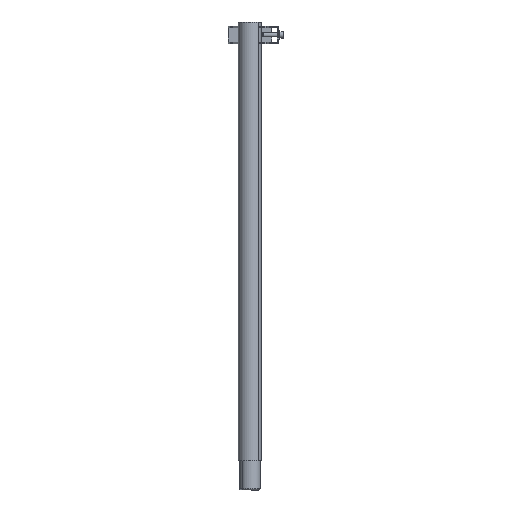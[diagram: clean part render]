
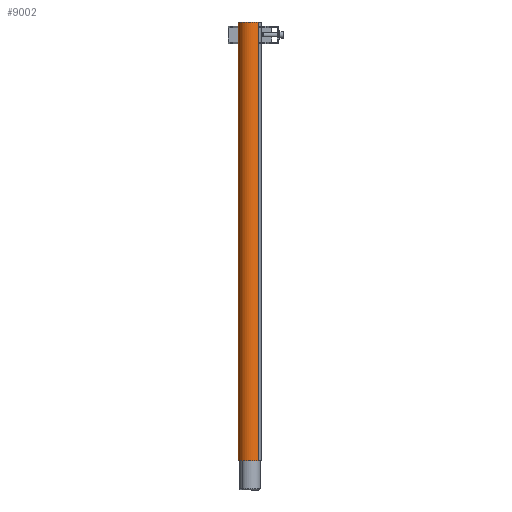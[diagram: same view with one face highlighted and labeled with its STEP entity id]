
A CAD part, left-side view. The second image highlights one B-rep face of the part: STEP entity #9002.
In plain terms, the highlighted cylindrical face has radius 22.5 mm (diameter 45 mm), a partial arc.
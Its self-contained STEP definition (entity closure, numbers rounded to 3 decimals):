
#3150 = DIRECTION ( 'NONE',  ( 0., 0., -1. ) ) ;
#3152 = DIRECTION ( 'NONE',  ( -1., 0., 0. ) ) ;
#3162 = CARTESIAN_POINT ( 'NONE',  ( 0., 0., 850. ) ) ;
#3522 = AXIS2_PLACEMENT_3D ( 'NONE', #3162, #3150, #3152 ) ;
#3953 = FACE_OUTER_BOUND ( 'NONE', #9286, .T. ) ;
#3958 = CYLINDRICAL_SURFACE ( 'NONE', #3522, 22.5 ) ;
#6686 = CARTESIAN_POINT ( 'NONE',  ( 22.5, 0., 850. ) ) ;
#6692 = CARTESIAN_POINT ( 'NONE',  ( -22.5, 0., 850. ) ) ;
#6695 = CARTESIAN_POINT ( 'NONE',  ( 22.5, 0., 0. ) ) ;
#6696 = CARTESIAN_POINT ( 'NONE',  ( -22.5, 0., 0. ) ) ;
#7751 = CARTESIAN_POINT ( 'NONE',  ( -22.5, 0., 850. ) ) ;
#7792 = DIRECTION ( 'NONE',  ( 1., 0., 0. ) ) ;
#7793 = DIRECTION ( 'NONE',  ( 0., 0., 1. ) ) ;
#7794 = CARTESIAN_POINT ( 'NONE',  ( 0., 0., 0. ) ) ;
#7796 = DIRECTION ( 'NONE',  ( 0., 0., -1. ) ) ;
#8257 = CARTESIAN_POINT ( 'NONE',  ( 0., 0., 850. ) ) ;
#8258 = DIRECTION ( 'NONE',  ( 0., 0., 1. ) ) ;
#8259 = DIRECTION ( 'NONE',  ( 1., 0., 0. ) ) ;
#8268 = CARTESIAN_POINT ( 'NONE',  ( 22.5, 0., 850. ) ) ;
#8269 = DIRECTION ( 'NONE',  ( 0., 0., -1. ) ) ;
#8581 = EDGE_CURVE ( 'NONE', #11410, #11414, #11941, .T. ) ;
#8582 = EDGE_CURVE ( 'NONE', #11413, #11414, #11938, .T. ) ;
#8589 = EDGE_CURVE ( 'NONE', #11404, #11410, #11950, .T. ) ;
#8595 = EDGE_CURVE ( 'NONE', #11404, #11413, #11953, .T. ) ;
#9002 = ADVANCED_FACE ( 'NONE', ( #3953 ), #3958, .T. ) ;
#9286 = EDGE_LOOP ( 'NONE', ( #10917, #10898, #10869, #10870 ) ) ;
#10048 = AXIS2_PLACEMENT_3D ( 'NONE', #7794, #7793, #7792 ) ;
#10051 = AXIS2_PLACEMENT_3D ( 'NONE', #8257, #8258, #8259 ) ;
#10869 = ORIENTED_EDGE ( 'NONE', *, *, #8582, .T. ) ;
#10870 = ORIENTED_EDGE ( 'NONE', *, *, #8581, .F. ) ;
#10898 = ORIENTED_EDGE ( 'NONE', *, *, #8595, .T. ) ;
#10917 = ORIENTED_EDGE ( 'NONE', *, *, #8589, .F. ) ;
#11404 = VERTEX_POINT ( 'NONE', #6686 ) ;
#11410 = VERTEX_POINT ( 'NONE', #6692 ) ;
#11413 = VERTEX_POINT ( 'NONE', #6695 ) ;
#11414 = VERTEX_POINT ( 'NONE', #6696 ) ;
#11938 = CIRCLE ( 'NONE', #10048, 22.5 ) ;
#11941 = LINE ( 'NONE', #7751, #11943 ) ;
#11943 = VECTOR ( 'NONE', #7796, 1000. ) ;
#11950 = CIRCLE ( 'NONE', #10051, 22.5 ) ;
#11953 = LINE ( 'NONE', #8268, #11959 ) ;
#11959 = VECTOR ( 'NONE', #8269, 1000. ) ;
